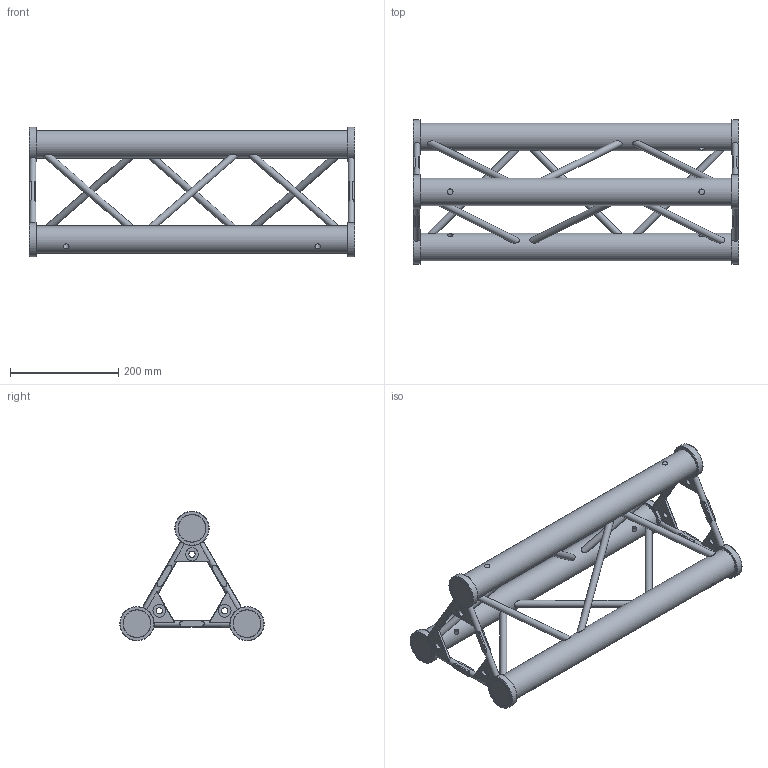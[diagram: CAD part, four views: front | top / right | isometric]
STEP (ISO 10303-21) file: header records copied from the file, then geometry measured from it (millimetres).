
FILE_DESCRIPTION(/* description */ (''),/* implementation_level */ '2;1');
FILE_NAME(/* name */ 'C:\Users\stephan\Desktop\A03\112040012.stp',/* time_stamp */ '2016-01-20T13:47:40+01:00',/* author */ ('Stephan'),/* organization */ (''),/* preprocessor_version */ 'ST-DEVELOPER v15.6',/* originating_system */ 'Autodesk Inventor 2015',/* authorisation */ '');
FILE_SCHEMA (('AUTOMOTIVE_DESIGN { 1 0 10303 214 3 1 1 }'));
Length unit declared in the file: millimetre
Products named in the file (1): 160025597
Bounding box: 600 x 266.3 x 239.1 mm (x, y, z)
Volume: 4100707.4 mm3; surface area: 475569.5 mm2
Topology: 16 solids, 16 shells, 274 faces, 648 edges, 420 vertices
Faces by surface type: plane 138, cylinder 112, cone 12, torus 12
Full cylindrical faces by diameter (mm): 10.5 x6, 11.5 x12, 12.7 x9, 23.5 x6, 50.8 x3, 51.3 x6, 63.3 x6
Entity records: 9157 total; most frequent: CARTESIAN_POINT 2861, DIRECTION 1176, ORIENTED_EDGE 1152, EDGE_CURVE 558, AXIS2_PLACEMENT_3D 471, EDGE_LOOP 408, VERTEX_POINT 396, STYLED_ITEM 273
